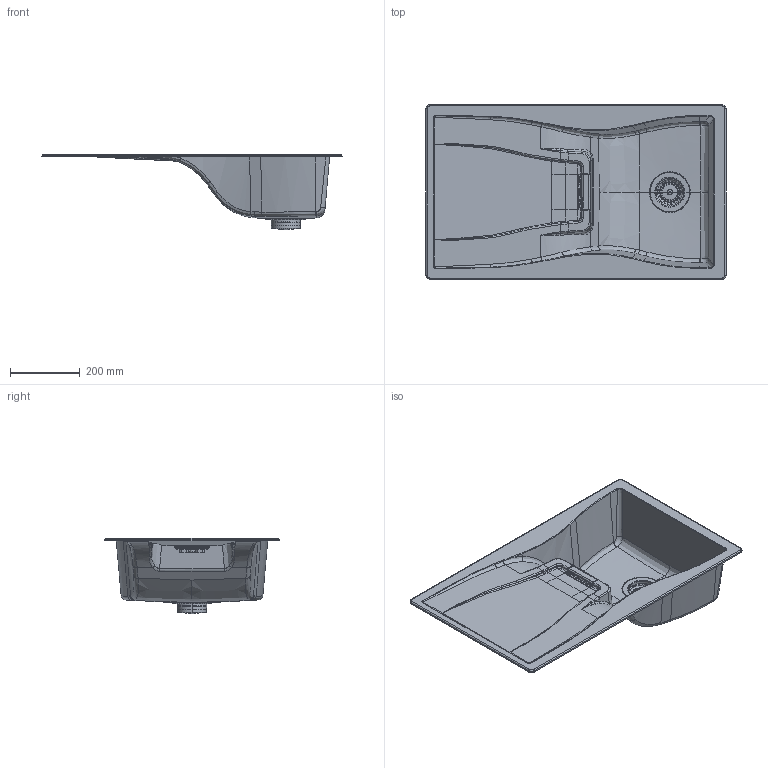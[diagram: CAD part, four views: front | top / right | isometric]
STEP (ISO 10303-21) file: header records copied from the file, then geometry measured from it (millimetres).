
FILE_DESCRIPTION(/* description */ (''),/* implementation_level */ '2;1');
FILE_NAME(/* name */ 'WATD100',/* time_stamp */ '2014-11-04T11:36:13+01:00',/* author */ (''),/* organization */ (''),/* preprocessor_version */ 'ST-DEVELOPER v15',/* originating_system */ '',/* authorisation */ '');
FILE_SCHEMA (('AUTOMOTIVE_DESIGN'));
Length unit declared in the file: millimetre
Products named in the file (1): Document
Bounding box: 860 x 500 x 216.25 mm (x, y, z)
Volume: 31105.3 mm3; surface area: 701883.9 mm2
Topology: 3 solids, 12 shells, 574 faces, 1523 edges, 914 vertices
Faces by surface type: bspline 525, plane 49
Entity records: 73901 total; most frequent: CARTESIAN_POINT 64915, ORIENTED_EDGE 2987, EDGE_CURVE 1513, B_SPLINE_CURVE_WITH_KNOTS 1385, VERTEX_POINT 914, EDGE_LOOP 658, ADVANCED_FACE 574, FACE_OUTER_BOUND 574
